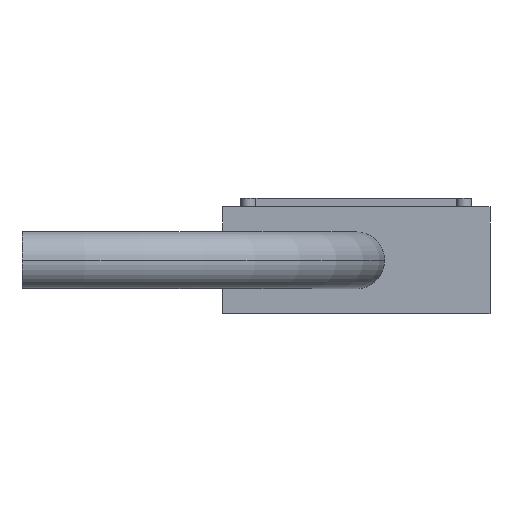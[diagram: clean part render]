
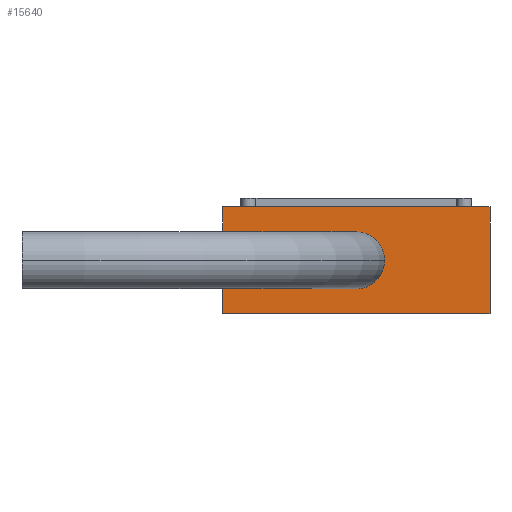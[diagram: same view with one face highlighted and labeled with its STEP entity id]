
A CAD part, front view. The second image highlights one B-rep face of the part: STEP entity #15640.
In plain terms, the highlighted planar face has unit normal (0, -1, 0).
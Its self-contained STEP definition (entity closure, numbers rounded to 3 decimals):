
#122 = VECTOR ( 'NONE', #3186, 1000. ) ;
#150 = VERTEX_POINT ( 'NONE', #3391 ) ;
#186 = VERTEX_POINT ( 'NONE', #3463 ) ;
#244 = EDGE_LOOP ( 'NONE', ( #16351, #16349 ) ) ;
#245 = EDGE_LOOP ( 'NONE', ( #16352, #16348, #16347, #16350 ) ) ;
#3105 = CARTESIAN_POINT ( 'NONE',  ( 0., 0., 0. ) ) ;
#3106 = DIRECTION ( 'NONE',  ( 0., -1., 0. ) ) ;
#3107 = DIRECTION ( 'NONE',  ( 0., 0., -1. ) ) ;
#3169 = LINE ( 'NONE', #3170, #15669 ) ;
#3170 = CARTESIAN_POINT ( 'NONE',  ( -20., 0., 8. ) ) ;
#3171 = DIRECTION ( 'NONE',  ( 1., 0., 0. ) ) ;
#3184 = LINE ( 'NONE', #3185, #122 ) ;
#3185 = CARTESIAN_POINT ( 'NONE',  ( -20., 0., -8. ) ) ;
#3186 = DIRECTION ( 'NONE',  ( -1., 0., 0. ) ) ;
#3391 = CARTESIAN_POINT ( 'NONE',  ( 4.25, 0., 0. ) ) ;
#3463 = CARTESIAN_POINT ( 'NONE',  ( -4.25, 0., 0. ) ) ;
#4040 = PLANE ( 'NONE',  #5031 ) ;
#4042 = CARTESIAN_POINT ( 'NONE',  ( 0., 0., 0. ) ) ;
#4044 = DIRECTION ( 'NONE',  ( 0., -1., 0. ) ) ;
#4046 = DIRECTION ( 'NONE',  ( 0., 0., -1. ) ) ;
#5024 = FACE_BOUND ( 'NONE', #244, .T. ) ;
#5028 = FACE_OUTER_BOUND ( 'NONE', #245, .T. ) ;
#5031 = AXIS2_PLACEMENT_3D ( 'NONE', #4042, #4044, #4046 ) ;
#5100 = AXIS2_PLACEMENT_3D ( 'NONE', #14958, #14980, #14981 ) ;
#5102 = VECTOR ( 'NONE', #14985, 1000. ) ;
#5103 = VECTOR ( 'NONE', #14988, 1000. ) ;
#14958 = CARTESIAN_POINT ( 'NONE',  ( 0., 0., 0. ) ) ;
#14980 = DIRECTION ( 'NONE',  ( 0., -1., 0. ) ) ;
#14981 = DIRECTION ( 'NONE',  ( 0., 0., -1. ) ) ;
#14983 = LINE ( 'NONE', #14984, #5102 ) ;
#14984 = CARTESIAN_POINT ( 'NONE',  ( -20., 0., 8. ) ) ;
#14985 = DIRECTION ( 'NONE',  ( 0., 0., 1. ) ) ;
#14986 = LINE ( 'NONE', #14987, #5103 ) ;
#14987 = CARTESIAN_POINT ( 'NONE',  ( 20., 0., 8. ) ) ;
#14988 = DIRECTION ( 'NONE',  ( 0., 0., -1. ) ) ;
#15065 = CARTESIAN_POINT ( 'NONE',  ( 20., 0., -8. ) ) ;
#15067 = CARTESIAN_POINT ( 'NONE',  ( 20., 0., 8. ) ) ;
#15068 = CARTESIAN_POINT ( 'NONE',  ( -20., 0., 8. ) ) ;
#15069 = CARTESIAN_POINT ( 'NONE',  ( -20., 0., -8. ) ) ;
#15206 = EDGE_CURVE ( 'NONE', #150, #186, #15258, .T. ) ;
#15227 = EDGE_CURVE ( 'NONE', #16613, #16612, #3169, .T. ) ;
#15232 = EDGE_CURVE ( 'NONE', #16610, #16614, #3184, .T. ) ;
#15258 = CIRCLE ( 'NONE', #15723, 4.25 ) ;
#15640 = ADVANCED_FACE ( 'NONE', ( #5024, #5028 ), #4040, .T. ) ;
#15669 = VECTOR ( 'NONE', #3171, 1000. ) ;
#15723 = AXIS2_PLACEMENT_3D ( 'NONE', #3105, #3106, #3107 ) ;
#15826 = CIRCLE ( 'NONE', #5100, 4.25 ) ;
#16347 = ORIENTED_EDGE ( 'NONE', *, *, #16492, .F. ) ;
#16348 = ORIENTED_EDGE ( 'NONE', *, *, #15227, .F. ) ;
#16349 = ORIENTED_EDGE ( 'NONE', *, *, #15206, .F. ) ;
#16350 = ORIENTED_EDGE ( 'NONE', *, *, #15232, .F. ) ;
#16351 = ORIENTED_EDGE ( 'NONE', *, *, #16491, .F. ) ;
#16352 = ORIENTED_EDGE ( 'NONE', *, *, #16493, .F. ) ;
#16491 = EDGE_CURVE ( 'NONE', #186, #150, #15826, .T. ) ;
#16492 = EDGE_CURVE ( 'NONE', #16614, #16613, #14983, .T. ) ;
#16493 = EDGE_CURVE ( 'NONE', #16612, #16610, #14986, .T. ) ;
#16610 = VERTEX_POINT ( 'NONE', #15065 ) ;
#16612 = VERTEX_POINT ( 'NONE', #15067 ) ;
#16613 = VERTEX_POINT ( 'NONE', #15068 ) ;
#16614 = VERTEX_POINT ( 'NONE', #15069 ) ;
